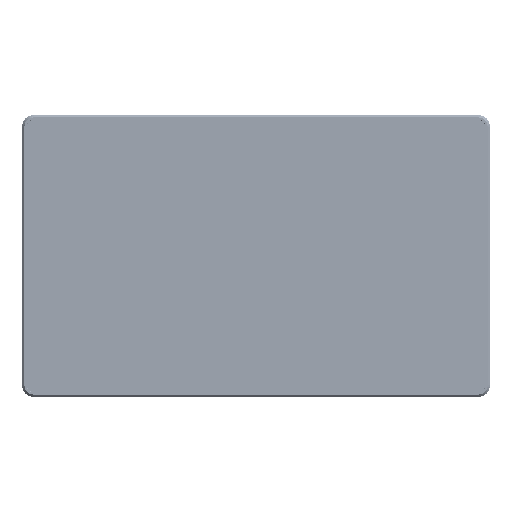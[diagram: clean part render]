
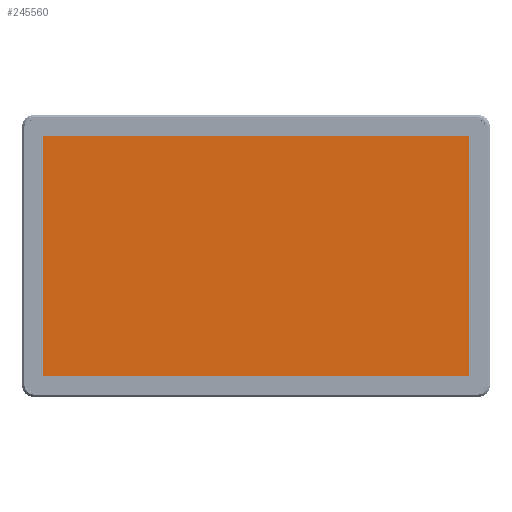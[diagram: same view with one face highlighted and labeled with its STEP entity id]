
A CAD part, top view. The second image highlights one B-rep face of the part: STEP entity #245560.
In plain terms, the highlighted planar face has unit normal (0, 0, 1).
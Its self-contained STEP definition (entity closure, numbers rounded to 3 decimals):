
#9911=FACE_OUTER_BOUND('',#22624,.T.);
#22624=EDGE_LOOP('',(#159087,#159088,#159089,#159090));
#41924=LINE('',#349067,#68698);
#41925=LINE('',#349069,#68699);
#41926=LINE('',#349071,#68700);
#41927=LINE('',#349072,#68701);
#68698=VECTOR('',#279610,10.);
#68699=VECTOR('',#279611,10.);
#68700=VECTOR('',#279612,10.);
#68701=VECTOR('',#279613,10.);
#95965=VERTEX_POINT('',#349065);
#95966=VERTEX_POINT('',#349066);
#95967=VERTEX_POINT('',#349068);
#95968=VERTEX_POINT('',#349070);
#120561=EDGE_CURVE('',#95965,#95966,#41924,.T.);
#120562=EDGE_CURVE('',#95966,#95967,#41925,.T.);
#120563=EDGE_CURVE('',#95967,#95968,#41926,.T.);
#120564=EDGE_CURVE('',#95968,#95965,#41927,.T.);
#159087=ORIENTED_EDGE('',*,*,#120561,.T.);
#159088=ORIENTED_EDGE('',*,*,#120562,.T.);
#159089=ORIENTED_EDGE('',*,*,#120563,.T.);
#159090=ORIENTED_EDGE('',*,*,#120564,.T.);
#225424=PLANE('',#258983);
#245560=ADVANCED_FACE('',(#9911),#225424,.T.);
#258983=AXIS2_PLACEMENT_3D('',#349064,#279608,#279609);
#279608=DIRECTION('center_axis',(0.,0.,
1.));
#279609=DIRECTION('ref_axis',(1.,0.,0.));
#279610=DIRECTION('',(0.,-1.,0.));
#279611=DIRECTION('',(1.,0.,0.));
#279612=DIRECTION('',(0.,1.,0.));
#279613=DIRECTION('',(-1.,0.,0.));
#349064=CARTESIAN_POINT('Origin',(0.,0.,
1.99));
#349065=CARTESIAN_POINT('',(-265.68,149.445,1.99));
#349066=CARTESIAN_POINT('',(-265.68,-149.445,1.99));
#349067=CARTESIAN_POINT('',(-265.68,-149.445,1.99));
#349068=CARTESIAN_POINT('',(265.68,-149.445,1.99));
#349069=CARTESIAN_POINT('',(265.68,-149.445,1.99));
#349070=CARTESIAN_POINT('',(265.68,149.445,1.99));
#349071=CARTESIAN_POINT('',(265.68,149.445,1.99));
#349072=CARTESIAN_POINT('',(-265.68,149.445,1.99));
